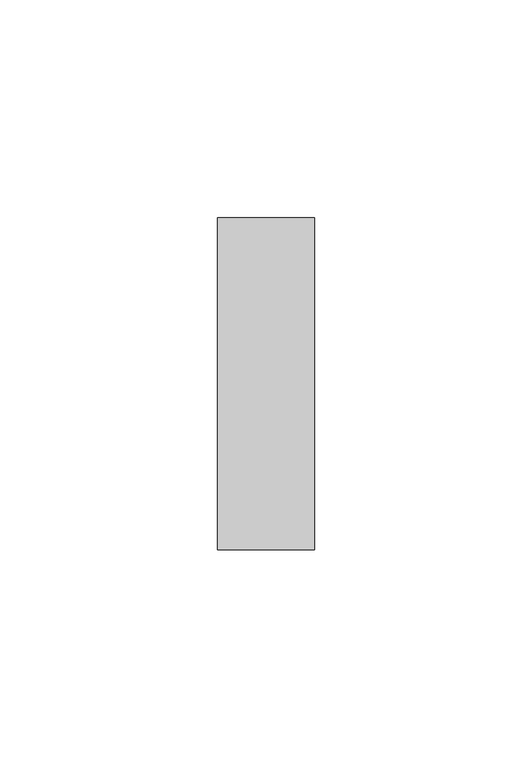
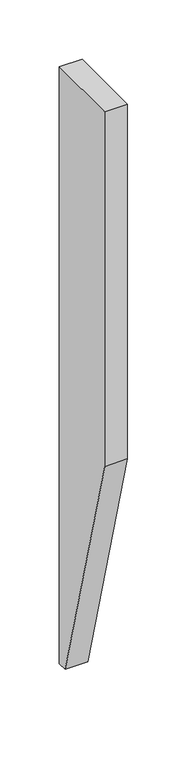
"""IFC4 building model written with IfcOpenShell, lengths in millimetres: proxy geometry, AERO^TABLE 2_ATS1S-4848^CNTLVR BLK SHRT05."""

from ifc_helpers import new_model, si_unit, frame, origin, place, context, project, spatial, polyline, outline, extrude, source, transform, mapped, element, save


def generic_models_52e6f8b7(model_context):
    return source(origin(), model_context, "Body", "SweptSolid", [
        extrude(outline(polyline([(76.2, 0.0), (76.2, -613.4313662), (66.675, -613.4313662), (0.0, -364.5968786), (0.0, 0.0), (76.2, 0.0)])), frame((-22.225, 0.0, 0.0), z_axis=(1.0, 0.0, 0.0), x_axis=(0.0, 1.0, 0.0)), (0.0, 0.0, 1.0), 22.225),
    ])


if __name__ == "__main__":
    model = new_model("IFC4")
    model_context = context("Model", 3, world=origin())
    ifc_project = project(units=[si_unit("LENGTHUNIT", "METRE", prefix="MILLI")], contexts=[model_context])
    site = spatial("IfcSite", under=ifc_project)
    building = spatial("IfcBuilding", under=site)
    placement = place(None, origin())
    generic_models_shape = generic_models_52e6f8b7(model_context)
    element("IfcBuildingElementProxy", 1, Name="AERO^TABLE 2_ATS1S-4848^CNTLVR BLK SHRT05", ObjectType="AERO^TABLE 2_ATS1S-4848^CNTLVR BLK SHRT05", at=placement, inside=building, context=model_context, shape_type="MappedRepresentation", body=[
        mapped(generic_models_shape, transform((0.0, 0.0, 0.0), x_axis=(1.0, 0.0, 0.0), y_axis=(0.0, 1.0, 0.0), z_axis=(0.0, 0.0, 1.0))),
    ])
    save(model, "model.ifc")
